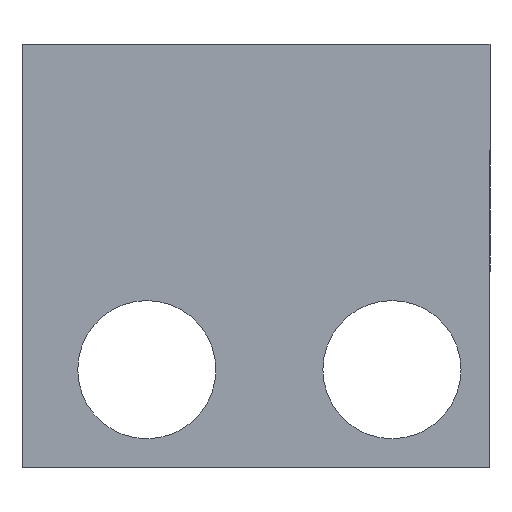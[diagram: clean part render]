
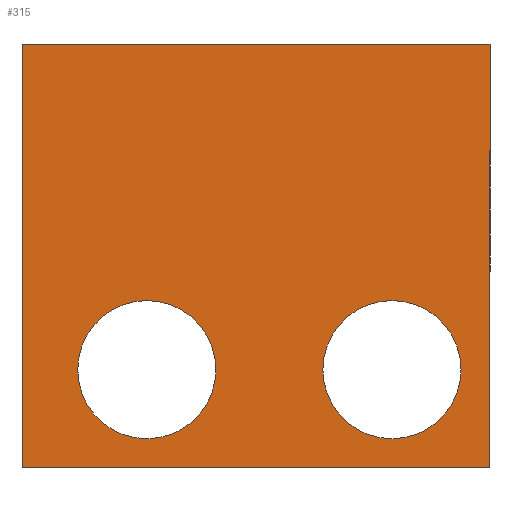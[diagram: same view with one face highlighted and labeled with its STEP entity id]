
A CAD part, left-side view. The second image highlights one B-rep face of the part: STEP entity #315.
In plain terms, the highlighted planar face has unit normal (-1, 0, 0) as drawn and (0, 0, -1) by its records, which use the part's own axes.
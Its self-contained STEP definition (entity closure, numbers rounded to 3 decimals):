
#1 = ORIENTED_EDGE ( 'NONE', *, *, #327, .F. ) ;
#2 = ORIENTED_EDGE ( 'NONE', *, *, #440, .F. ) ;
#3 = ORIENTED_EDGE ( 'NONE', *, *, #436, .F. ) ;
#21 = CIRCLE ( 'NONE', #34, 1.55 ) ;
#22 = CARTESIAN_POINT ( 'NONE',  ( 7.3, -2.8, -2.25 ) ) ;
#23 = DIRECTION ( 'NONE',  ( 1., 0., 0. ) ) ;
#24 = DIRECTION ( 'NONE',  ( 0., 0., -1. ) ) ;
#26 = VECTOR ( 'NONE', #27, 1000. ) ;
#27 = DIRECTION ( 'NONE',  ( 1., 0., 0. ) ) ;
#28 = CARTESIAN_POINT ( 'NONE',  ( 0., -10.5, -2.25 ) ) ;
#29 = LINE ( 'NONE', #28, #26 ) ;
#34 = AXIS2_PLACEMENT_3D ( 'NONE', #22, #24, #23 ) ;
#43 = CARTESIAN_POINT ( 'NONE',  ( 9.5, 0., -2.25 ) ) ;
#44 = DIRECTION ( 'NONE',  ( 0., 1., 0. ) ) ;
#45 = VECTOR ( 'NONE', #44, 1000. ) ;
#46 = CARTESIAN_POINT ( 'NONE',  ( 9.5, 0., -2.25 ) ) ;
#47 = LINE ( 'NONE', #46, #45 ) ;
#48 = CARTESIAN_POINT ( 'NONE',  ( 0., -10.5, -2.25 ) ) ;
#49 = DIRECTION ( 'NONE',  ( 0., -1., 0. ) ) ;
#50 = VECTOR ( 'NONE', #49, 1000. ) ;
#51 = CARTESIAN_POINT ( 'NONE',  ( 0., 0., -2.25 ) ) ;
#52 = LINE ( 'NONE', #51, #50 ) ;
#53 = CARTESIAN_POINT ( 'NONE',  ( 0., 0., -2.25 ) ) ;
#88 = CARTESIAN_POINT ( 'NONE',  ( 5.75, -8.3, -2.25 ) ) ;
#89 = CARTESIAN_POINT ( 'NONE',  ( 8.85, -8.3, -2.25 ) ) ;
#90 = DIRECTION ( 'NONE',  ( 1., 0., 0. ) ) ;
#91 = DIRECTION ( 'NONE',  ( 0., 0., -1. ) ) ;
#98 = EDGE_LOOP ( 'NONE', ( #3, #1, #2, #311 ) ) ;
#99 = CARTESIAN_POINT ( 'NONE',  ( 9.5, -10.5, -2.25 ) ) ;
#148 = AXIS2_PLACEMENT_3D ( 'NONE', #154, #91, #90 ) ;
#149 = CIRCLE ( 'NONE', #148, 1.55 ) ;
#154 = CARTESIAN_POINT ( 'NONE',  ( 7.3, -8.3, -2.25 ) ) ;
#171 = EDGE_CURVE ( 'NONE', #358, #357, #491, .T. ) ;
#197 = ORIENTED_EDGE ( 'NONE', *, *, #171, .F. ) ;
#198 = EDGE_LOOP ( 'NONE', ( #210, #197 ) ) ;
#210 = ORIENTED_EDGE ( 'NONE', *, *, #386, .F. ) ;
#223 = ORIENTED_EDGE ( 'NONE', *, *, #224, .F. ) ;
#224 = EDGE_CURVE ( 'NONE', #454, #453, #528, .T. ) ;
#311 = ORIENTED_EDGE ( 'NONE', *, *, #388, .F. ) ;
#315 = ADVANCED_FACE ( 'NONE', ( #556, #551, #550 ), #549, .F. ) ;
#316 = EDGE_LOOP ( 'NONE', ( #317, #223 ) ) ;
#317 = ORIENTED_EDGE ( 'NONE', *, *, #452, .F. ) ;
#327 = EDGE_CURVE ( 'NONE', #441, #434, #534, .T. ) ;
#357 = VERTEX_POINT ( 'NONE', #615 ) ;
#358 = VERTEX_POINT ( 'NONE', #614 ) ;
#386 = EDGE_CURVE ( 'NONE', #357, #358, #21, .T. ) ;
#388 = EDGE_CURVE ( 'NONE', #437, #409, #29, .T. ) ;
#409 = VERTEX_POINT ( 'NONE', #99 ) ;
#434 = VERTEX_POINT ( 'NONE', #53 ) ;
#436 = EDGE_CURVE ( 'NONE', #434, #437, #52, .T. ) ;
#437 = VERTEX_POINT ( 'NONE', #48 ) ;
#440 = EDGE_CURVE ( 'NONE', #409, #441, #47, .T. ) ;
#441 = VERTEX_POINT ( 'NONE', #43 ) ;
#452 = EDGE_CURVE ( 'NONE', #453, #454, #149, .T. ) ;
#453 = VERTEX_POINT ( 'NONE', #89 ) ;
#454 = VERTEX_POINT ( 'NONE', #88 ) ;
#488 = DIRECTION ( 'NONE',  ( 0., 0., -1. ) ) ;
#489 = CARTESIAN_POINT ( 'NONE',  ( 7.3, -2.8, -2.25 ) ) ;
#490 = AXIS2_PLACEMENT_3D ( 'NONE', #489, #488, #530 ) ;
#491 = CIRCLE ( 'NONE', #490, 1.55 ) ;
#505 = DIRECTION ( 'NONE',  ( -1., 0., 0. ) ) ;
#506 = VECTOR ( 'NONE', #505, 1000. ) ;
#524 = DIRECTION ( 'NONE',  ( 1., 0., 0. ) ) ;
#525 = DIRECTION ( 'NONE',  ( 0., 0., -1. ) ) ;
#526 = CARTESIAN_POINT ( 'NONE',  ( 7.3, -8.3, -2.25 ) ) ;
#527 = AXIS2_PLACEMENT_3D ( 'NONE', #526, #525, #524 ) ;
#528 = CIRCLE ( 'NONE', #527, 1.55 ) ;
#530 = DIRECTION ( 'NONE',  ( 1., 0., 0. ) ) ;
#533 = CARTESIAN_POINT ( 'NONE',  ( 0., 0., -2.25 ) ) ;
#534 = LINE ( 'NONE', #533, #506 ) ;
#545 = DIRECTION ( 'NONE',  ( 1., 0., 0. ) ) ;
#546 = DIRECTION ( 'NONE',  ( 0., 0., 1. ) ) ;
#547 = CARTESIAN_POINT ( 'NONE',  ( 0., -10.5, -2.25 ) ) ;
#548 = AXIS2_PLACEMENT_3D ( 'NONE', #547, #546, #545 ) ;
#549 = PLANE ( 'NONE',  #548 ) ;
#550 = FACE_OUTER_BOUND ( 'NONE', #98, .T. ) ;
#551 = FACE_BOUND ( 'NONE', #198, .T. ) ;
#556 = FACE_BOUND ( 'NONE', #316, .T. ) ;
#614 = CARTESIAN_POINT ( 'NONE',  ( 5.75, -2.8, -2.25 ) ) ;
#615 = CARTESIAN_POINT ( 'NONE',  ( 8.85, -2.8, -2.25 ) ) ;
